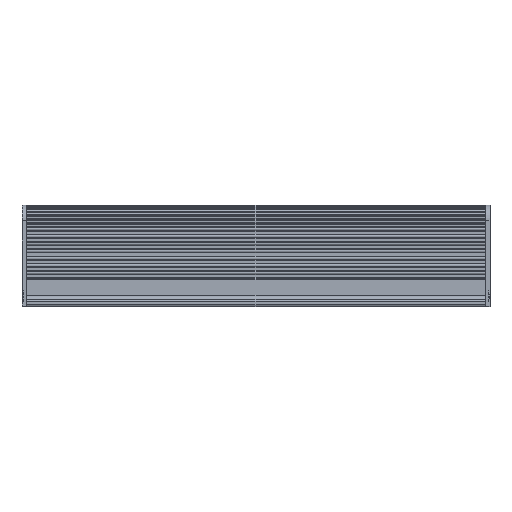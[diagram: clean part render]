
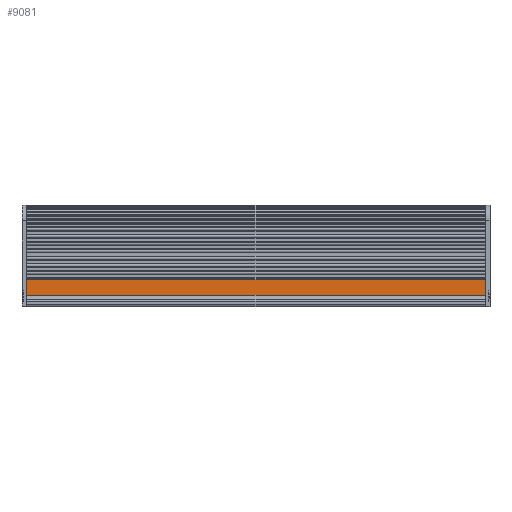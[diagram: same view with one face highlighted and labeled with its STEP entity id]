
A CAD part, top view. The second image highlights one B-rep face of the part: STEP entity #9081.
In plain terms, the highlighted planar face has unit normal (0, 0, 1).
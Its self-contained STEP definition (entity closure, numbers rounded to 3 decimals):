
#1261=FACE_OUTER_BOUND('',#1721,.T.);
#1721=EDGE_LOOP('',(#6714,#6715,#6716,#6717));
#2183=LINE('',#13736,#2923);
#2390=LINE('',#14603,#3130);
#2391=LINE('',#14605,#3131);
#2392=LINE('',#14606,#3132);
#2923=VECTOR('',#10979,10.);
#3130=VECTOR('',#11928,10.);
#3131=VECTOR('',#11931,10.);
#3132=VECTOR('',#11932,10.);
#3671=VERTEX_POINT('',#13732);
#3673=VERTEX_POINT('',#13735);
#3961=VERTEX_POINT('',#14599);
#3962=VERTEX_POINT('',#14601);
#4648=EDGE_CURVE('',#3671,#3673,#2183,.T.);
#5082=EDGE_CURVE('',#3961,#3962,#2390,.T.);
#5083=EDGE_CURVE('',#3961,#3671,#2391,.T.);
#5084=EDGE_CURVE('',#3673,#3962,#2392,.T.);
#6714=ORIENTED_EDGE('',*,*,#5083,.F.);
#6715=ORIENTED_EDGE('',*,*,#5082,.T.);
#6716=ORIENTED_EDGE('',*,*,#5084,.F.);
#6717=ORIENTED_EDGE('',*,*,#4648,.F.);
#8415=PLANE('',#9949);
#9081=ADVANCED_FACE('',(#1261),#8415,.T.);
#9949=AXIS2_PLACEMENT_3D('',#14604,#11929,#11930);
#10979=DIRECTION('',(-1.,0.,0.));
#11928=DIRECTION('',(-1.,0.,0.));
#11929=DIRECTION('center_axis',(0.,0.,1.));
#11930=DIRECTION('ref_axis',(0.,1.,0.));
#11931=DIRECTION('',(0.,-1.,0.));
#11932=DIRECTION('',(0.,1.,0.));
#13732=CARTESIAN_POINT('',(0.,3.502,129.041));
#13735=CARTESIAN_POINT('',(-145.,3.502,129.041));
#13736=CARTESIAN_POINT('',(0.,3.502,129.041));
#14599=CARTESIAN_POINT('',(0.,8.579,129.041));
#14601=CARTESIAN_POINT('',(-145.,8.579,129.041));
#14603=CARTESIAN_POINT('',(0.,8.579,129.041));
#14604=CARTESIAN_POINT('Origin',(0.,3.502,129.041));
#14605=CARTESIAN_POINT('',(0.,8.579,129.041));
#14606=CARTESIAN_POINT('',(-145.,8.579,129.041));
